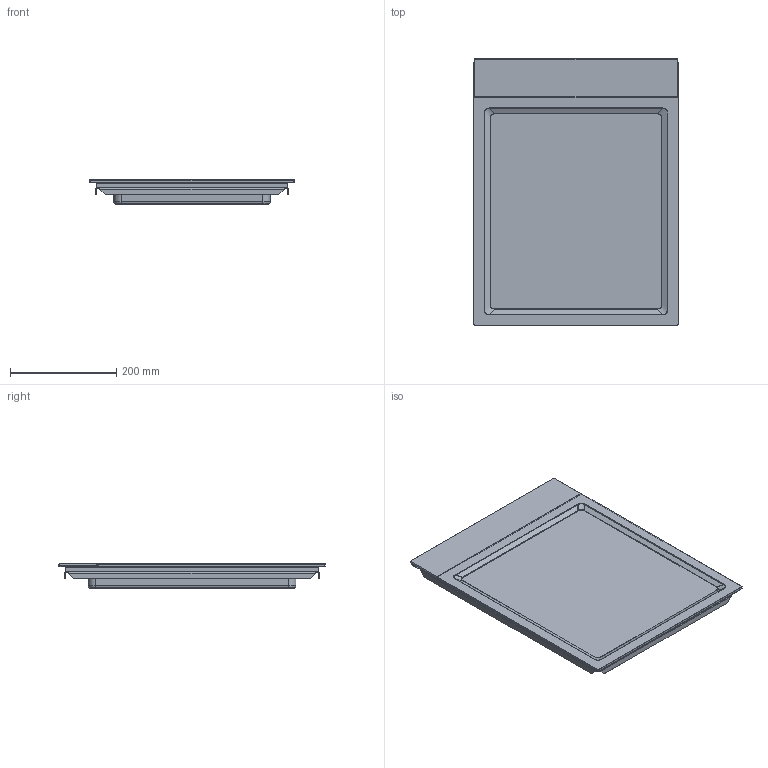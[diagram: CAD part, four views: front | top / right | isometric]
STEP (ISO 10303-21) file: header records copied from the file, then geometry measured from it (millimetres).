
FILE_DESCRIPTION(('CATIA V6 STEP','CAx-IF Rec.Pracs.--- Model Styling and Organization---1.2---2011-12-15'),'2;1');
FILE_NAME('P:\CATIA-UserDaten\3D Planungsdaten\GK\3D GK-Teppan Yaki Sortiment\307600205-A.stp','2016-11-03T13:05:39+00:00',('none'),('none'),'CATIA Unofficial Packaging Version','DASSAULT SYSTEMES CATIA V6 STEP AP214','none');
FILE_SCHEMA(('AUTOMOTIVE_DESIGN { 1 0 10303 214 1 1 1 1 }'));
Length unit declared in the file: millimetre
Products named in the file (1): 1030350-00
Bounding box: 384 x 501 x 46.85 mm (x, y, z)
Volume: 897426.1 mm3; surface area: 1176072.8 mm2
Topology: 5 solids, 5 shells, 170 faces, 417 edges, 262 vertices
Faces by surface type: plane 70, cylinder 68, bspline 16, cone 8, torus 4, revolution 4
Entity records: 6932 total; most frequent: CARTESIAN_POINT 3158, ORIENTED_EDGE 834, DIRECTION 615, EDGE_CURVE 417, VERTEX_POINT 262, AXIS2_PLACEMENT_3D 234, VECTOR 231, LINE 231
